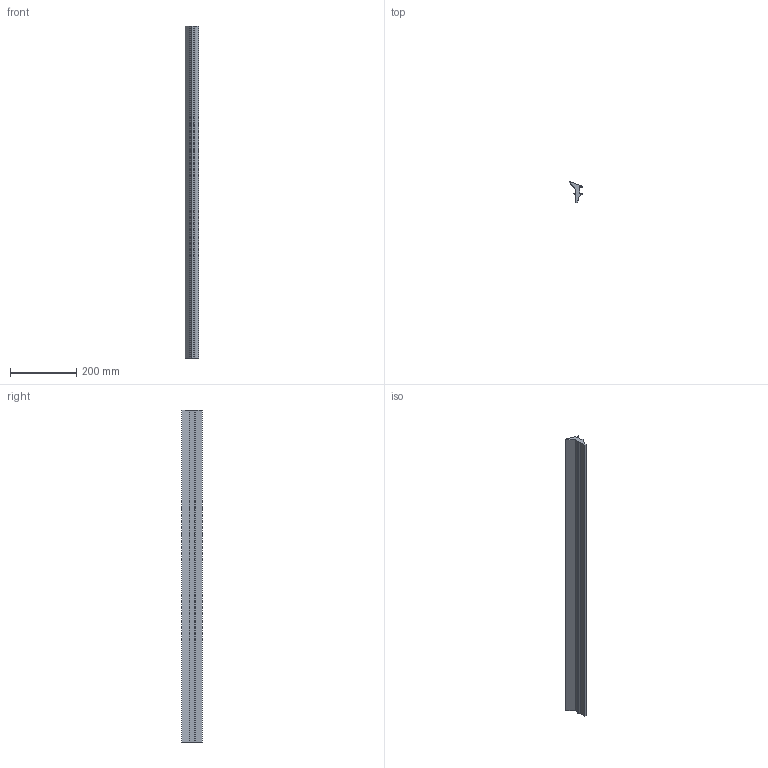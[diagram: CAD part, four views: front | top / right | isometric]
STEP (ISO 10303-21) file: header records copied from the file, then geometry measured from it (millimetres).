
FILE_DESCRIPTION (( 'STEP AP214' ), '1' );
FILE_NAME ('SF05005.step', '2024-12-03T16:29:54', ( '' ), ( '' ), 'SwSTEP 2.0', 'SolidWorks 2023', '' );
FILE_SCHEMA (( 'AUTOMOTIVE_DESIGN' ));
Length unit declared in the file: millimetre
Products named in the file (1): SF05005
Bounding box: 41.59 x 62.98 x 1000 mm (x, y, z)
Volume: 794523.6 mm3; surface area: 201109 mm2
Topology: 1 solids, 1 shells, 24 faces, 66 edges, 44 vertices
Faces by surface type: plane 13, cylinder 11
Entity records: 795 total; most frequent: DIRECTION 138, CARTESIAN_POINT 135, ORIENTED_EDGE 132, EDGE_CURVE 66, AXIS2_PLACEMENT_3D 47, VERTEX_POINT 44, LINE 44, VECTOR 44
